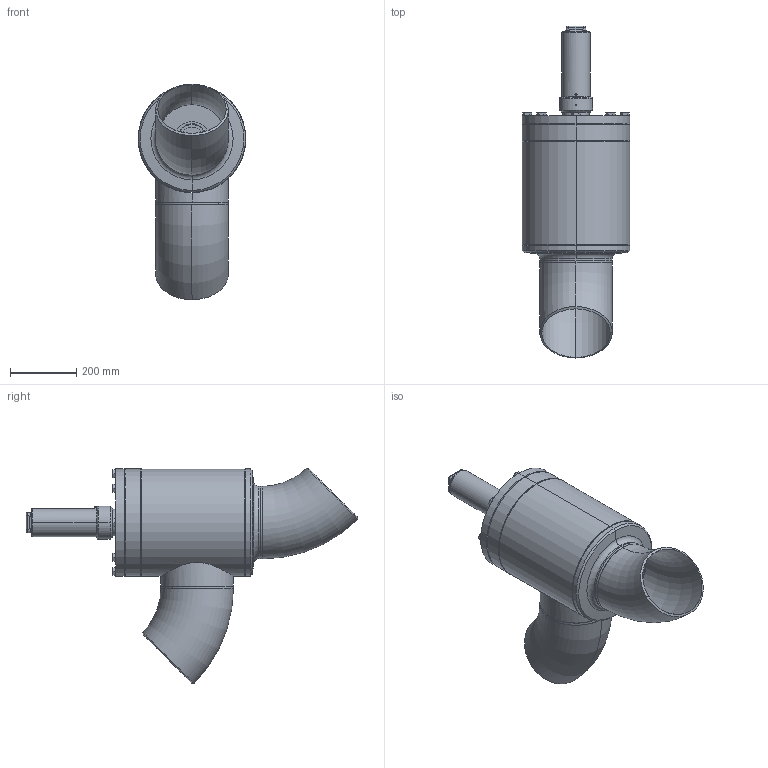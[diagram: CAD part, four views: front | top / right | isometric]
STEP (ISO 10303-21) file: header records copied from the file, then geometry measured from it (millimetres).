
FILE_DESCRIPTION (( 'STEP AP214' ), '1' );
FILE_NAME ('HRAR22300C23-DN200_R1_PS25.STEP', '2010-06-16T11:33:50', ( 'Eckhard Grams' ), ( 'AWP Kälte Klima Armaturen GmbH' ), 'SwSTEP 2.0', 'SolidWorks 2002296', '' );
FILE_SCHEMA (( 'AUTOMOTIVE_DESIGN' ));
Length unit declared in the file: millimetre
Products named in the file (19): HRAR22300C23-DN200_R1_PS25; AVR26300B23_Deck+Schr-DN200_Standard; Deckel,kpl26300B23-DN200_Standard; bead-deck264-200_Standard; bead-deck263-200_Standard; Buchse f Deckel16300-DN200_Standard; Scheibe f Deckel16300-DN200_Standard; Sechskantschraube-DIN933_M16x 45; Geh,kpl 16300-DN200_R1_Standard; Boden16300-DN200_Standard; Gehäuse16300-DN200_Standard; Kopfstück16300-DN200_Standard; Rohrbogen 45°_R1-Fase_Rohrbogen-DN200-45°; Rohrstutzen-A16300-DN200_R1_Standard; bead Geh,kpl 16300-23-3_Standard; bead Geh,kpl 16300-23-2_Standard; bead Geh,kpl 16300-23-1_Standard; bead Geh,kpl 16300-23-4_Standard; Kappe 16402-23_DN200-350 (M80x3)_Standard
Assembly tree (26 placements, depth 4):
  HRAR22300C23-DN200_R1_PS25
    Kappe 16402-23_DN200-350 (M80x3)_Standard
    Geh,kpl 16300-DN200_R1_Standard
      Rohrbogen 45°_R1-Fase_Rohrbogen-DN200-45°  x2
      Rohrstutzen-A16300-DN200_R1_Standard
      Boden16300-DN200_Standard
      Gehäuse16300-DN200_Standard
      bead Geh,kpl 16300-23-4_Standard
      bead Geh,kpl 16300-23-2_Standard
      bead Geh,kpl 16300-23-3_Standard
      Kopfstück16300-DN200_Standard
      bead Geh,kpl 16300-23-1_Standard
    AVR26300B23_Deck+Schr-DN200_Standard
      Deckel,kpl26300B23-DN200_Standard
        bead-deck264-200_Standard
        bead-deck263-200_Standard
        Scheibe f Deckel16300-DN200_Standard
        Buchse f Deckel16300-DN200_Standard
      Sechskantschraube-DIN933_M16x 45  x8
Bounding box: 325 x 1002.64 x 650.95 mm (x, y, z)
Volume: 13512805.9 mm3; surface area: 2301429.5 mm2
Topology: 23 solids, 23 shells, 457 faces, 993 edges, 597 vertices
Faces by surface type: cone 150, plane 124, cylinder 118, bspline 41, torus 24
Entity records: 50402 total; most frequent: CARTESIAN_POINT 43463, DIRECTION 1261, ORIENTED_EDGE 1214, EDGE_CURVE 607, AXIS2_PLACEMENT_3D 547, VERTEX_POINT 373, EDGE_LOOP 326, CIRCLE 284
